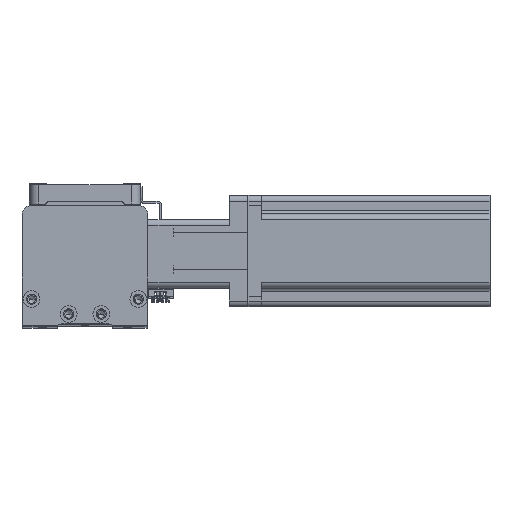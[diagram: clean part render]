
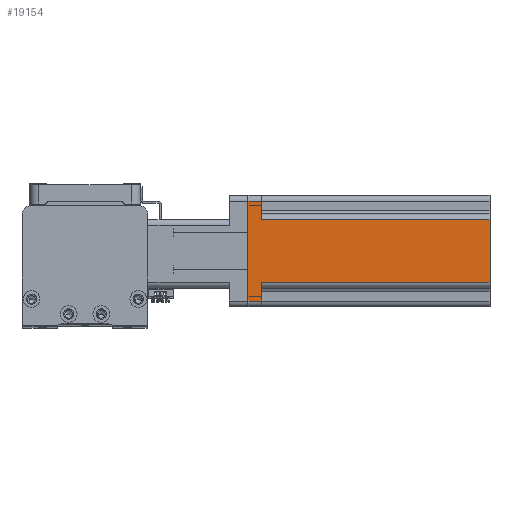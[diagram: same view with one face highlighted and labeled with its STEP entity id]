
A CAD part, top view. The second image highlights one B-rep face of the part: STEP entity #19154.
In plain terms, the highlighted planar face has unit normal (0, 0, 1) as drawn and (1, 0, 0) by its records, which use the part's own axes.
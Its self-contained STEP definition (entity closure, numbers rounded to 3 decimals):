
#698 = DIRECTION ( 'NONE',  ( -1., 0., 0. ) ) ;
#1104 = CARTESIAN_POINT ( 'NONE',  ( 30., 30., 7.5 ) ) ;
#1248 = DIRECTION ( 'NONE',  ( 0., -1., 0. ) ) ;
#1829 = LINE ( 'NONE', #42495, #18552 ) ;
#2842 = DIRECTION ( 'NONE',  ( 0., 0., 1. ) ) ;
#3810 = ORIENTED_EDGE ( 'NONE', *, *, #40791, .F. ) ;
#6273 = ORIENTED_EDGE ( 'NONE', *, *, #40027, .T. ) ;
#7799 = VERTEX_POINT ( 'NONE', #28194 ) ;
#8290 = LINE ( 'NONE', #39560, #25070 ) ;
#10315 = LINE ( 'NONE', #36700, #27046 ) ;
#10511 = PLANE ( 'NONE',  #12609 ) ;
#10826 = ORIENTED_EDGE ( 'NONE', *, *, #31075, .T. ) ;
#11900 = CARTESIAN_POINT ( 'NONE',  ( 30., 17., 7.5 ) ) ;
#12609 = AXIS2_PLACEMENT_3D ( 'NONE', #20767, #698, #24120 ) ;
#13217 = CARTESIAN_POINT ( 'NONE',  ( 30., -27., 130.7 ) ) ;
#14441 = DIRECTION ( 'NONE',  ( 0., 1., 0. ) ) ;
#15387 = CARTESIAN_POINT ( 'NONE',  ( 30., -17., 7.5 ) ) ;
#15740 = DIRECTION ( 'NONE',  ( 0., 1., 0. ) ) ;
#16464 = VECTOR ( 'NONE', #23091, 1000. ) ;
#17479 = VECTOR ( 'NONE', #19465, 1000. ) ;
#17480 = LINE ( 'NONE', #19697, #16464 ) ;
#17578 = VECTOR ( 'NONE', #1248, 1000. ) ;
#18023 = EDGE_CURVE ( 'NONE', #7799, #22520, #17480, .T. ) ;
#18499 = LINE ( 'NONE', #42877, #17479 ) ;
#18552 = VECTOR ( 'NONE', #15740, 1000. ) ;
#18777 = VERTEX_POINT ( 'NONE', #15387 ) ;
#19154 = ADVANCED_FACE ( 'NONE', ( #27231 ), #10511, .F. ) ;
#19348 = CARTESIAN_POINT ( 'NONE',  ( 30., 27., 7.5 ) ) ;
#19465 = DIRECTION ( 'NONE',  ( 0., 0., 1. ) ) ;
#19697 = CARTESIAN_POINT ( 'NONE',  ( 30., -30., 130.7 ) ) ;
#20196 = DIRECTION ( 'NONE',  ( 0., 0., -1. ) ) ;
#20644 = EDGE_CURVE ( 'NONE', #40269, #22854, #8290, .T. ) ;
#20767 = CARTESIAN_POINT ( 'NONE',  ( 30., -30., 130.7 ) ) ;
#21307 = CARTESIAN_POINT ( 'NONE',  ( 30., -30., 7.5 ) ) ;
#21481 = CARTESIAN_POINT ( 'NONE',  ( 30., 27., 0. ) ) ;
#22520 = VERTEX_POINT ( 'NONE', #38203 ) ;
#22854 = VERTEX_POINT ( 'NONE', #19348 ) ;
#23091 = DIRECTION ( 'NONE',  ( 0., 1., 0. ) ) ;
#24093 = EDGE_LOOP ( 'NONE', ( #33541, #6273, #10826, #29107, #27221, #41423, #3810, #36672 ) ) ;
#24120 = DIRECTION ( 'NONE',  ( 0., 0., 1. ) ) ;
#25067 = EDGE_CURVE ( 'NONE', #35278, #41060, #40139, .T. ) ;
#25070 = VECTOR ( 'NONE', #2842, 1000. ) ;
#26274 = CARTESIAN_POINT ( 'NONE',  ( 30., -27., 0. ) ) ;
#26637 = DIRECTION ( 'NONE',  ( 0., 0., -1. ) ) ;
#27046 = VECTOR ( 'NONE', #20196, 1000. ) ;
#27221 = ORIENTED_EDGE ( 'NONE', *, *, #31267, .T. ) ;
#27231 = FACE_OUTER_BOUND ( 'NONE', #24093, .T. ) ;
#27947 = LINE ( 'NONE', #1104, #35814 ) ;
#28194 = CARTESIAN_POINT ( 'NONE',  ( 30., -17., 130.7 ) ) ;
#29107 = ORIENTED_EDGE ( 'NONE', *, *, #25067, .T. ) ;
#31075 = EDGE_CURVE ( 'NONE', #18777, #35278, #35367, .T. ) ;
#31199 = VECTOR ( 'NONE', #26637, 1000. ) ;
#31267 = EDGE_CURVE ( 'NONE', #41060, #40269, #1829, .T. ) ;
#33541 = ORIENTED_EDGE ( 'NONE', *, *, #18023, .F. ) ;
#34142 = EDGE_CURVE ( 'NONE', #37681, #22520, #18499, .T. ) ;
#35278 = VERTEX_POINT ( 'NONE', #40855 ) ;
#35367 = LINE ( 'NONE', #21307, #17578 ) ;
#35814 = VECTOR ( 'NONE', #14441, 1000. ) ;
#36672 = ORIENTED_EDGE ( 'NONE', *, *, #34142, .T. ) ;
#36700 = CARTESIAN_POINT ( 'NONE',  ( 30., -17., 7.5 ) ) ;
#37681 = VERTEX_POINT ( 'NONE', #11900 ) ;
#38203 = CARTESIAN_POINT ( 'NONE',  ( 30., 17., 130.7 ) ) ;
#39560 = CARTESIAN_POINT ( 'NONE',  ( 30., 27., 130.7 ) ) ;
#40027 = EDGE_CURVE ( 'NONE', #7799, #18777, #10315, .T. ) ;
#40139 = LINE ( 'NONE', #13217, #31199 ) ;
#40269 = VERTEX_POINT ( 'NONE', #21481 ) ;
#40791 = EDGE_CURVE ( 'NONE', #37681, #22854, #27947, .T. ) ;
#40855 = CARTESIAN_POINT ( 'NONE',  ( 30., -27., 7.5 ) ) ;
#41060 = VERTEX_POINT ( 'NONE', #26274 ) ;
#41423 = ORIENTED_EDGE ( 'NONE', *, *, #20644, .T. ) ;
#42495 = CARTESIAN_POINT ( 'NONE',  ( 30., -30., 0. ) ) ;
#42877 = CARTESIAN_POINT ( 'NONE',  ( 30., 17., 130.7 ) ) ;
